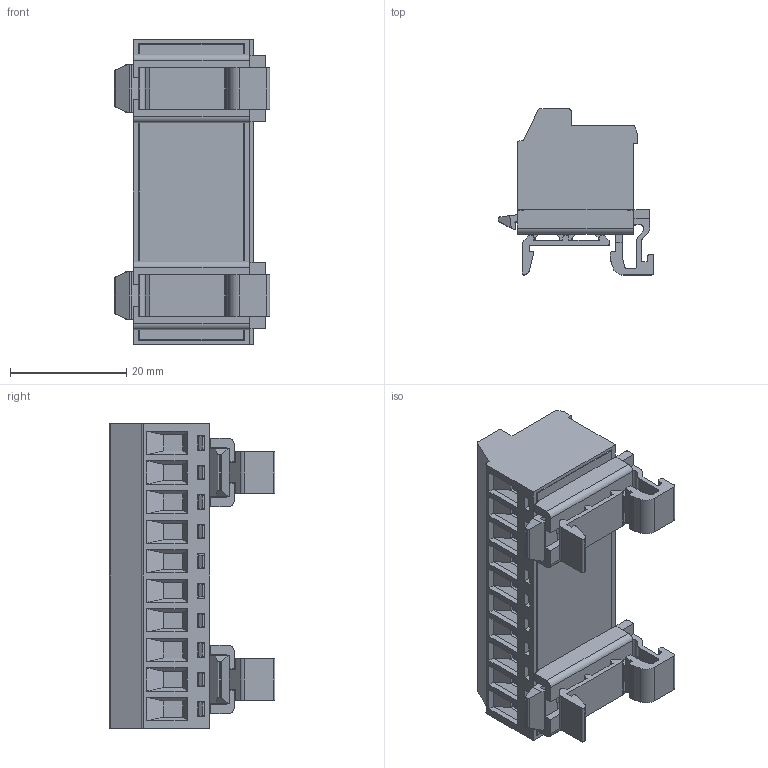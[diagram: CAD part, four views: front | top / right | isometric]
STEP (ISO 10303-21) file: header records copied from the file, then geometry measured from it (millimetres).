
FILE_DESCRIPTION(('STEP AP203'), '1');
FILE_NAME('WJ2EDGVK-5.08-10P', '', ('UNSPECIFIED'), ('UNSPECIFIED'), 'C3D Converter', 'C3D Toolkit', '');
FILE_SCHEMA(('CONFIG_CONTROL_DESIGN'));
Length unit declared in the file: millimetre
Products named in the file (2): KLR2GVK-5.08-10P
Assembly tree (1 placements, depth 2):
  KLR2GVK-5.08-10P
    KLR2GVK-5.08-10P
Bounding box: 26.7 x 28.5 x 52.32 mm (x, y, z)
Volume: 13830.8 mm3; surface area: 14870.9 mm2
Topology: 1 solids, 11 shells, 1807 faces, 5040 edges, 3261 vertices
Faces by surface type: plane 1343, cylinder 324, torus 80, cone 40, bspline 20
Full cylindrical faces by diameter (mm): 3.8 x10, 3.9 x10, 4.05 x19
Entity records: 79891 total; most frequent: CARTESIAN_POINT 19354, ORIENTED_EDGE 9900, DIRECTION 8937, EDGE_CURVE 4950, LINE 3969, VECTOR 3969, VERTEX_POINT 3260, AXIS2_PLACEMENT_3D 2484
